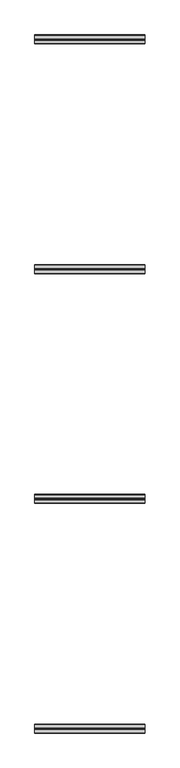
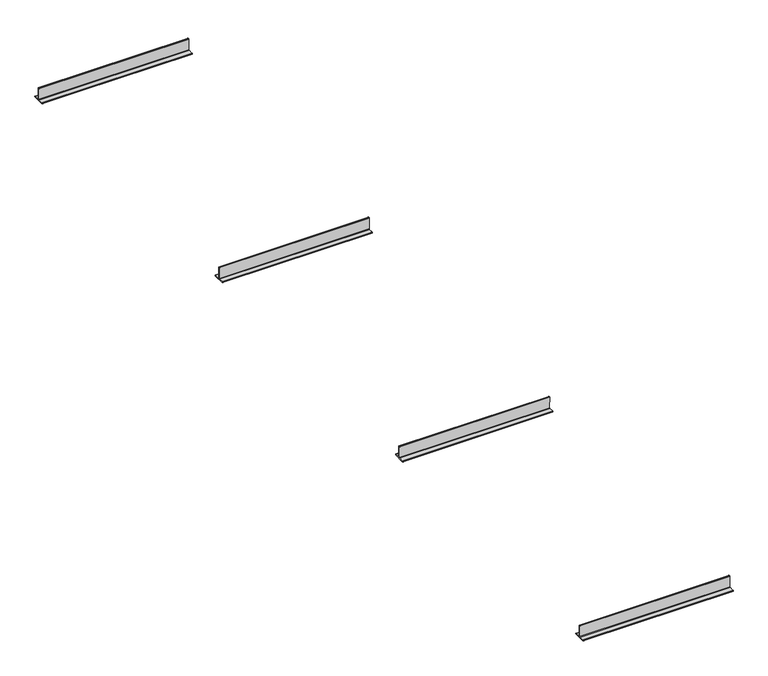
"""IFC4 building model written with IfcOpenShell, lengths in millimetres: proxy geometry, modelo_altus 1.3dm."""

from ifc_helpers import new_model, si_unit, point, frame, frame_2d, origin, place, context, project, spatial, polyline, circle_curve, trimmed, segment, composite_curve, outline, extrude, source, transform, mapped, element, save


def generic_models_402eb42b(model_context):
    return source(origin(), model_context, "Body", "SweptSolid", [
        extrude(outline(composite_curve([segment(trimmed(circle_curve(frame_2d((-263.2816353, -37.5843423)), 0.8), [point((-263.2816353, -38.3843423))], [point((-264.0816353, -37.5843423))], False, "CARTESIAN"), True, "CONTINUOUS"), segment(polyline([(-264.0816353, -37.5843423), (-264.0816353, -37.1843423)]), True, "CONTINUOUS"), segment(trimmed(circle_curve(frame_2d((-263.2816353, -37.1843423)), 0.8), [point((-264.0816353, -37.1843423))], [point((-263.2816353, -36.3843423))], False, "CARTESIAN"), True, "CONTINUOUS"), segment(polyline([(-263.2816353, -36.3843423), (-253.8816353, -36.5088944)]), True, "CONTINUOUS"), segment(trimmed(circle_curve(frame_2d((-253.8816353, -35.7088944)), 0.8), [point((-253.8816353, -36.5088944))], [point((-253.0816353, -35.7088944))], True, "CARTESIAN"), True, "CONTINUOUS"), segment(polyline([(-253.0816353, -35.7088944), (-253.1228217, -13.7843423)]), True, "CONTINUOUS"), segment(trimmed(circle_curve(frame_2d((-252.3228217, -13.7843423)), 0.8), [point((-253.1228217, -13.7843423))], [point((-252.3228217, -12.9843423))], False, "CARTESIAN"), True, "CONTINUOUS"), segment(polyline([(-252.3228217, -12.9843423), (-251.8816353, -12.9843423)]), True, "CONTINUOUS"), segment(trimmed(circle_curve(frame_2d((-251.8816353, -13.7843423)), 0.8), [point((-251.8816353, -12.9843423))], [point((-251.0816353, -13.7843423))], False, "CARTESIAN"), True, "CONTINUOUS"), segment(polyline([(-251.0816353, -13.7843423), (-251.0816353, -35.5843423)]), True, "CONTINUOUS"), segment(trimmed(circle_curve(frame_2d((-250.2816353, -35.5843423)), 0.8), [point((-251.0816353, -35.5843423))], [point((-250.2816353, -36.3843423))], True, "CARTESIAN"), True, "CONTINUOUS"), segment(polyline([(-250.2816353, -36.3843423), (-240.8816353, -36.3967521)]), True, "CONTINUOUS"), segment(trimmed(circle_curve(frame_2d((-240.8816353, -37.1967521)), 0.8), [point((-240.8816353, -36.3967521))], [point((-240.0816353, -37.1967521))], False, "CARTESIAN"), True, "CONTINUOUS"), segment(polyline([(-240.0816353, -37.1967521), (-240.0816353, -37.5843423)]), True, "CONTINUOUS"), segment(trimmed(circle_curve(frame_2d((-240.8816353, -37.5843423)), 0.8), [point((-240.0816353, -37.5843423))], [point((-240.8816353, -38.3843423))], False, "CARTESIAN"), True, "CONTINUOUS"), segment(polyline([(-240.8816353, -38.3843423), (-263.2816353, -38.3843423)]), True, "CONTINUOUS")], self_intersect=False)), frame((-12035.3060212, 0.0, 0.0), z_axis=(1.0, 0.0, 0.0), x_axis=(0.0, 1.0, 0.0)), (0.0, 0.0, 1.0), 293.0),
        extrude(outline(composite_curve([segment(trimmed(circle_curve(frame_2d((346.7183647, -37.5843423)), 0.8), [point((346.7183647, -38.3843423))], [point((345.9183647, -37.5843423))], False, "CARTESIAN"), True, "CONTINUOUS"), segment(polyline([(345.9183647, -37.5843423), (345.9183647, -37.1843423)]), True, "CONTINUOUS"), segment(trimmed(circle_curve(frame_2d((346.7183647, -37.1843423)), 0.8), [point((345.9183647, -37.1843423))], [point((346.7183647, -36.3843423))], False, "CARTESIAN"), True, "CONTINUOUS"), segment(polyline([(346.7183647, -36.3843423), (356.1183647, -36.5088944)]), True, "CONTINUOUS"), segment(trimmed(circle_curve(frame_2d((356.1183647, -35.7088944)), 0.8), [point((356.1183647, -36.5088944))], [point((356.9183647, -35.7088944))], True, "CARTESIAN"), True, "CONTINUOUS"), segment(polyline([(356.9183647, -35.7088944), (356.8771783, -13.7843423)]), True, "CONTINUOUS"), segment(trimmed(circle_curve(frame_2d((357.6771783, -13.7843423)), 0.8), [point((356.8771783, -13.7843423))], [point((357.6771783, -12.9843423))], False, "CARTESIAN"), True, "CONTINUOUS"), segment(polyline([(357.6771783, -12.9843423), (358.1183647, -12.9843423)]), True, "CONTINUOUS"), segment(trimmed(circle_curve(frame_2d((358.1183647, -13.7843423)), 0.8), [point((358.1183647, -12.9843423))], [point((358.9183647, -13.7843423))], False, "CARTESIAN"), True, "CONTINUOUS"), segment(polyline([(358.9183647, -13.7843423), (358.9183647, -35.5843423)]), True, "CONTINUOUS"), segment(trimmed(circle_curve(frame_2d((359.7183647, -35.5843423)), 0.8), [point((358.9183647, -35.5843423))], [point((359.7183647, -36.3843423))], True, "CARTESIAN"), True, "CONTINUOUS"), segment(polyline([(359.7183647, -36.3843423), (369.1183647, -36.3967521)]), True, "CONTINUOUS"), segment(trimmed(circle_curve(frame_2d((369.1183647, -37.1967521)), 0.8), [point((369.1183647, -36.3967521))], [point((369.9183647, -37.1967521))], False, "CARTESIAN"), True, "CONTINUOUS"), segment(polyline([(369.9183647, -37.1967521), (369.9183647, -37.5843423)]), True, "CONTINUOUS"), segment(trimmed(circle_curve(frame_2d((369.1183647, -37.5843423)), 0.8), [point((369.9183647, -37.5843423))], [point((369.1183647, -38.3843423))], False, "CARTESIAN"), True, "CONTINUOUS"), segment(polyline([(369.1183647, -38.3843423), (346.7183647, -38.3843423)]), True, "CONTINUOUS")], self_intersect=False)), frame((-12035.3060212, 0.0, 0.0), z_axis=(1.0, 0.0, 0.0), x_axis=(0.0, 1.0, 0.0)), (0.0, 0.0, 1.0), 293.0),
        extrude(outline(composite_curve([segment(trimmed(circle_curve(frame_2d((956.7183647, -37.5843423)), 0.8), [point((956.7183647, -38.3843423))], [point((955.9183647, -37.5843423))], False, "CARTESIAN"), True, "CONTINUOUS"), segment(polyline([(955.9183647, -37.5843423), (955.9183647, -37.1843423)]), True, "CONTINUOUS"), segment(trimmed(circle_curve(frame_2d((956.7183647, -37.1843423)), 0.8), [point((955.9183647, -37.1843423))], [point((956.7183647, -36.3843423))], False, "CARTESIAN"), True, "CONTINUOUS"), segment(polyline([(956.7183647, -36.3843423), (966.1183647, -36.5088944)]), True, "CONTINUOUS"), segment(trimmed(circle_curve(frame_2d((966.1183647, -35.7088944)), 0.8), [point((966.1183647, -36.5088944))], [point((966.9183647, -35.7088944))], True, "CARTESIAN"), True, "CONTINUOUS"), segment(polyline([(966.9183647, -35.7088944), (966.8771783, -13.7843423)]), True, "CONTINUOUS"), segment(trimmed(circle_curve(frame_2d((967.6771783, -13.7843423)), 0.8), [point((966.8771783, -13.7843423))], [point((967.6771783, -12.9843423))], False, "CARTESIAN"), True, "CONTINUOUS"), segment(polyline([(967.6771783, -12.9843423), (968.1183647, -12.9843423)]), True, "CONTINUOUS"), segment(trimmed(circle_curve(frame_2d((968.1183647, -13.7843423)), 0.8), [point((968.1183647, -12.9843423))], [point((968.9183647, -13.7843423))], False, "CARTESIAN"), True, "CONTINUOUS"), segment(polyline([(968.9183647, -13.7843423), (968.9183647, -35.5843423)]), True, "CONTINUOUS"), segment(trimmed(circle_curve(frame_2d((969.7183647, -35.5843423)), 0.8), [point((968.9183647, -35.5843423))], [point((969.7183647, -36.3843423))], True, "CARTESIAN"), True, "CONTINUOUS"), segment(polyline([(969.7183647, -36.3843423), (979.1183647, -36.3967521)]), True, "CONTINUOUS"), segment(trimmed(circle_curve(frame_2d((979.1183647, -37.1967521)), 0.8), [point((979.1183647, -36.3967521))], [point((979.9183647, -37.1967521))], False, "CARTESIAN"), True, "CONTINUOUS"), segment(polyline([(979.9183647, -37.1967521), (979.9183647, -37.5843423)]), True, "CONTINUOUS"), segment(trimmed(circle_curve(frame_2d((979.1183647, -37.5843423)), 0.8), [point((979.9183647, -37.5843423))], [point((979.1183647, -38.3843423))], False, "CARTESIAN"), True, "CONTINUOUS"), segment(polyline([(979.1183647, -38.3843423), (956.7183647, -38.3843423)]), True, "CONTINUOUS")], self_intersect=False)), frame((-12035.3060212, 0.0, 0.0), z_axis=(1.0, 0.0, 0.0), x_axis=(0.0, 1.0, 0.0)), (0.0, 0.0, 1.0), 293.0),
        extrude(outline(composite_curve([segment(trimmed(circle_curve(frame_2d((1566.7183647, -37.5843423)), 0.8), [point((1566.7183647, -38.3843423))], [point((1565.9183647, -37.5843423))], False, "CARTESIAN"), True, "CONTINUOUS"), segment(polyline([(1565.9183647, -37.5843423), (1565.9183647, -37.1843423)]), True, "CONTINUOUS"), segment(trimmed(circle_curve(frame_2d((1566.7183647, -37.1843423)), 0.8), [point((1565.9183647, -37.1843423))], [point((1566.7183647, -36.3843423))], False, "CARTESIAN"), True, "CONTINUOUS"), segment(polyline([(1566.7183647, -36.3843423), (1576.1183647, -36.5088944)]), True, "CONTINUOUS"), segment(trimmed(circle_curve(frame_2d((1576.1183647, -35.7088944)), 0.8), [point((1576.1183647, -36.5088944))], [point((1576.9183647, -35.7088944))], True, "CARTESIAN"), True, "CONTINUOUS"), segment(polyline([(1576.9183647, -35.7088944), (1576.8771783, -13.7843423)]), True, "CONTINUOUS"), segment(trimmed(circle_curve(frame_2d((1577.6771783, -13.7843423)), 0.8), [point((1576.8771783, -13.7843423))], [point((1577.6771783, -12.9843423))], False, "CARTESIAN"), True, "CONTINUOUS"), segment(polyline([(1577.6771783, -12.9843423), (1578.1183647, -12.9843423)]), True, "CONTINUOUS"), segment(trimmed(circle_curve(frame_2d((1578.1183647, -13.7843423)), 0.8), [point((1578.1183647, -12.9843423))], [point((1578.9183647, -13.7843423))], False, "CARTESIAN"), True, "CONTINUOUS"), segment(polyline([(1578.9183647, -13.7843423), (1578.9183647, -35.5843423)]), True, "CONTINUOUS"), segment(trimmed(circle_curve(frame_2d((1579.7183647, -35.5843423)), 0.8), [point((1578.9183647, -35.5843423))], [point((1579.7183647, -36.3843423))], True, "CARTESIAN"), True, "CONTINUOUS"), segment(polyline([(1579.7183647, -36.3843423), (1589.1183647, -36.3967521)]), True, "CONTINUOUS"), segment(trimmed(circle_curve(frame_2d((1589.1183647, -37.1967521)), 0.8), [point((1589.1183647, -36.3967521))], [point((1589.9183647, -37.1967521))], False, "CARTESIAN"), True, "CONTINUOUS"), segment(polyline([(1589.9183647, -37.1967521), (1589.9183647, -37.5843423)]), True, "CONTINUOUS"), segment(trimmed(circle_curve(frame_2d((1589.1183647, -37.5843423)), 0.8), [point((1589.9183647, -37.5843423))], [point((1589.1183647, -38.3843423))], False, "CARTESIAN"), True, "CONTINUOUS"), segment(polyline([(1589.1183647, -38.3843423), (1566.7183647, -38.3843423)]), True, "CONTINUOUS")], self_intersect=False)), frame((-12035.3060212, 0.0, 0.0), z_axis=(1.0, 0.0, 0.0), x_axis=(0.0, 1.0, 0.0)), (0.0, 0.0, 1.0), 293.0),
    ])


if __name__ == "__main__":
    model = new_model("IFC4")
    model_context = context("Model", 3, world=origin())
    ifc_project = project(units=[si_unit("LENGTHUNIT", "METRE", prefix="MILLI")], contexts=[model_context])
    site = spatial("IfcSite", under=ifc_project)
    building = spatial("IfcBuilding", under=site)
    placement = place(None, origin())
    generic_models_shape = generic_models_402eb42b(model_context)
    element("IfcBuildingElementProxy", 1, Name="modelo_altus 1.3dm", ObjectType="modelo_altus 1.3dm", at=placement, inside=building, context=model_context, shape_type="MappedRepresentation", body=[
        mapped(generic_models_shape, transform((0.0, 0.0, 0.0), x_axis=(1.0, 0.0, 0.0), y_axis=(0.0, 1.0, 0.0), z_axis=(0.0, 0.0, 1.0))),
    ])
    save(model, "model.ifc")
